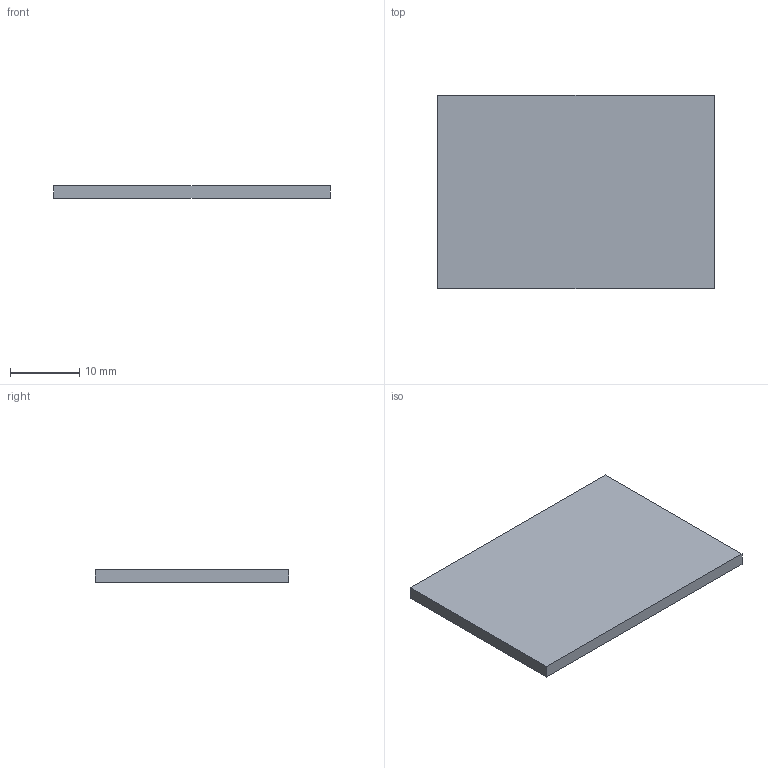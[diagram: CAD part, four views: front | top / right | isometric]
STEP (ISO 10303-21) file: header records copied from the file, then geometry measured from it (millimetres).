
FILE_DESCRIPTION(('Open CASCADE Model'),'2;1');
FILE_NAME('Open CASCADE Shape Model','2026-11-05T02:23:55',('Author'),( 'Open CASCADE'),'Open CASCADE STEP processor 7.8','Open CASCADE 7.8' ,'Unknown');
FILE_SCHEMA(('AUTOMOTIVE_DESIGN { 1 0 10303 214 1 1 1 1 }'));
Length unit declared in the file: millimetre
Products named in the file (1): Open CASCADE STEP translator 7.8 16
Bounding box: 40 x 28 x 1.85 mm (x, y, z)
Volume: 2072 mm3; surface area: 2491.6 mm2
Topology: 1 solids, 1 shells, 6 faces, 12 edges, 8 vertices
Faces by surface type: plane 6
Entity records: 322 total; most frequent: CARTESIAN_POINT 51, DIRECTION 50, LINE 36, VECTOR 36, ORIENTED_EDGE 24, PCURVE 24, DEFINITIONAL_REPRESENTATION 24, EDGE_CURVE 12
